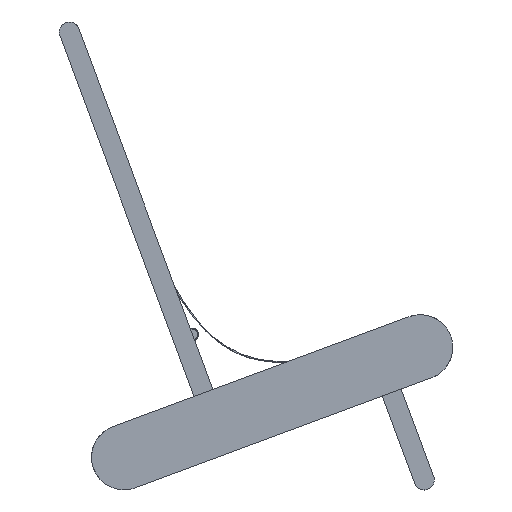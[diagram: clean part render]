
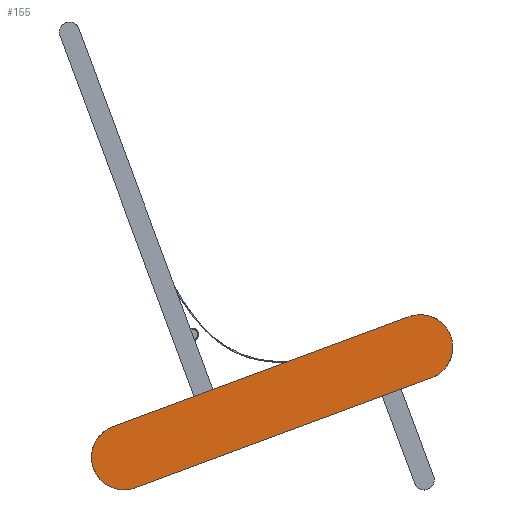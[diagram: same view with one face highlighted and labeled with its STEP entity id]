
A CAD part, left-side view. The second image highlights one B-rep face of the part: STEP entity #155.
In plain terms, the highlighted planar face has unit normal (-1, 0, 0).
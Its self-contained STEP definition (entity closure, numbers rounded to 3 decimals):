
#155=ADVANCED_FACE('',(#334),#2614,.T.);
#334=FACE_OUTER_BOUND('',#517,.T.);
#517=EDGE_LOOP('',(#1018,#1019,#1020,#1021,#1022));
#1018=ORIENTED_EDGE('',*,*,#1652,.F.);
#1019=ORIENTED_EDGE('',*,*,#1655,.F.);
#1020=ORIENTED_EDGE('',*,*,#1658,.F.);
#1021=ORIENTED_EDGE('',*,*,#1661,.F.);
#1022=ORIENTED_EDGE('',*,*,#1663,.F.);
#1652=EDGE_CURVE('',#2426,#2423,#2103,.T.);
#1655=EDGE_CURVE('',#2428,#2426,#2106,.T.);
#1658=EDGE_CURVE('',#2430,#2428,#2109,.T.);
#1661=EDGE_CURVE('',#2432,#2430,#2112,.T.);
#1663=EDGE_CURVE('',#2423,#2432,#2114,.T.);
#2103=(
BOUNDED_CURVE()
B_SPLINE_CURVE(2,(#5814,#5815,#5816),.UNSPECIFIED.,.F.,.F.)
B_SPLINE_CURVE_WITH_KNOTS((3,3),(0.,145.),.UNSPECIFIED.)
CURVE()
GEOMETRIC_REPRESENTATION_ITEM()
RATIONAL_B_SPLINE_CURVE((1.,0.707,1.))
REPRESENTATION_ITEM('')
);
#2106=(
BOUNDED_CURVE()
B_SPLINE_CURVE(2,(#5822,#5823,#5824),.UNSPECIFIED.,.F.,.F.)
B_SPLINE_CURVE_WITH_KNOTS((3,3),(0.,703.952),.UNSPECIFIED.)
CURVE()
GEOMETRIC_REPRESENTATION_ITEM()
RATIONAL_B_SPLINE_CURVE((1.,1.,1.))
REPRESENTATION_ITEM('')
);
#2109=(
BOUNDED_CURVE()
B_SPLINE_CURVE(2,(#5832,#5833,#5834,#5835,#5836),.UNSPECIFIED.,.F.,.F.)
B_SPLINE_CURVE_WITH_KNOTS((3,2,3),(0.,145.,290.),
 .UNSPECIFIED.)
CURVE()
GEOMETRIC_REPRESENTATION_ITEM()
RATIONAL_B_SPLINE_CURVE((1.,0.707,1.,0.707,1.))
REPRESENTATION_ITEM('')
);
#2112=(
BOUNDED_CURVE()
B_SPLINE_CURVE(2,(#5842,#5843,#5844),.UNSPECIFIED.,.F.,.F.)
B_SPLINE_CURVE_WITH_KNOTS((3,3),(0.,703.952),.UNSPECIFIED.)
CURVE()
GEOMETRIC_REPRESENTATION_ITEM()
RATIONAL_B_SPLINE_CURVE((1.,1.,1.))
REPRESENTATION_ITEM('')
);
#2114=(
BOUNDED_CURVE()
B_SPLINE_CURVE(2,(#5848,#5849,#5850),.UNSPECIFIED.,.F.,.F.)
B_SPLINE_CURVE_WITH_KNOTS((3,3),(0.,145.),.UNSPECIFIED.)
CURVE()
GEOMETRIC_REPRESENTATION_ITEM()
RATIONAL_B_SPLINE_CURVE((1.,0.707,1.))
REPRESENTATION_ITEM('')
);
#2423=VERTEX_POINT('',#5781);
#2426=VERTEX_POINT('',#5784);
#2428=VERTEX_POINT('',#5786);
#2430=VERTEX_POINT('',#5788);
#2432=VERTEX_POINT('',#5790);
#2614=PLANE('',#2914);
#2914=AXIS2_PLACEMENT_3D('',#5767,#3081,$);
#3081=DIRECTION('',(-1.,0.,0.));
#5767=CARTESIAN_POINT('',(-625.,859.063,-63.558));
#5781=CARTESIAN_POINT('',(-625.,-46.63,343.243));
#5784=CARTESIAN_POINT('',(-625.,46.581,385.954));
#5786=CARTESIAN_POINT('',(-625.,706.46,140.785));
#5788=CARTESIAN_POINT('',(-625.,655.96,4.863));
#5790=CARTESIAN_POINT('',(-625.,-3.919,250.032));
#5814=CARTESIAN_POINT('',(-625.,46.581,385.954));
#5815=CARTESIAN_POINT('',(-625.,-21.38,411.204));
#5816=CARTESIAN_POINT('',(-625.,-46.63,343.243));
#5822=CARTESIAN_POINT('',(-625.,706.46,140.785));
#5823=CARTESIAN_POINT('',(-625.,376.52,263.369));
#5824=CARTESIAN_POINT('',(-625.,46.581,385.954));
#5832=CARTESIAN_POINT('',(-625.,655.96,4.863));
#5833=CARTESIAN_POINT('',(-625.,723.921,-20.387));
#5834=CARTESIAN_POINT('',(-625.,749.171,47.574));
#5835=CARTESIAN_POINT('',(-625.,774.421,115.535));
#5836=CARTESIAN_POINT('',(-625.,706.46,140.785));
#5842=CARTESIAN_POINT('',(-625.,-3.919,250.032));
#5843=CARTESIAN_POINT('',(-625.,326.02,127.447));
#5844=CARTESIAN_POINT('',(-625.,655.96,4.863));
#5848=CARTESIAN_POINT('',(-625.,-46.63,343.243));
#5849=CARTESIAN_POINT('',(-625.,-71.88,275.282));
#5850=CARTESIAN_POINT('',(-625.,-3.919,250.032));
